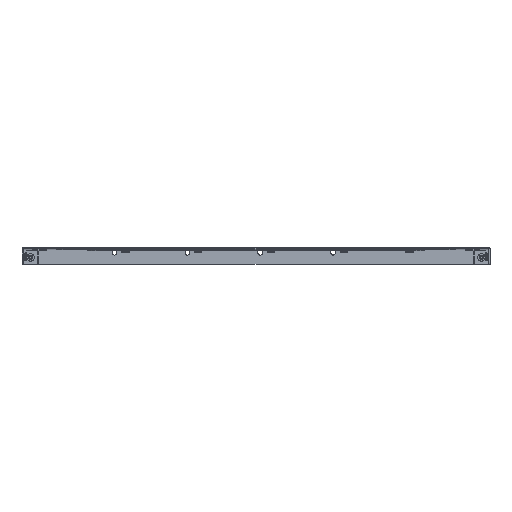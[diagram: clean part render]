
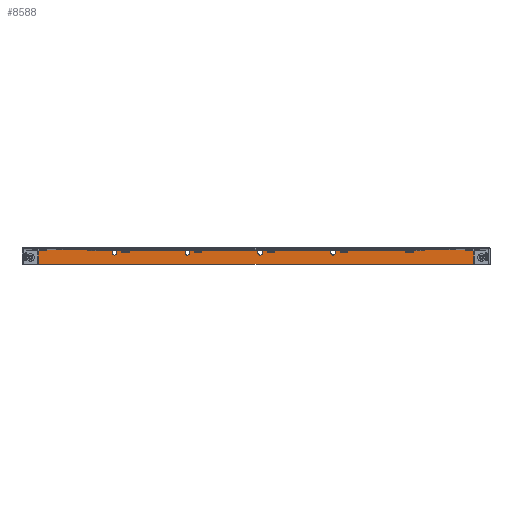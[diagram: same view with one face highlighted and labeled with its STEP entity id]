
A CAD part, top view. The second image highlights one B-rep face of the part: STEP entity #8588.
In plain terms, the highlighted planar face has unit normal (0, 0, 1).
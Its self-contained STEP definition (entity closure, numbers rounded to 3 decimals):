
#2459=CARTESIAN_POINT('',(203.5,-12.8,-600.));
#2460=DIRECTION('',(0.,0.,1.));
#2461=DIRECTION('',(0.,-1.,0.));
#2462=AXIS2_PLACEMENT_3D('',#2459,#2460,#2461);
#2467=DIRECTION('',(-1.,0.,0.));
#2468=VECTOR('',#2467,407.);
#2469=CARTESIAN_POINT('',(203.5,-13.8,-600.));
#2470=LINE('',#2469,#2468);
#2474=CARTESIAN_POINT('',(-203.5,-12.8,-600.));
#2475=DIRECTION('',(0.,0.,1.));
#2476=DIRECTION('',(-1.,0.,0.));
#2477=AXIS2_PLACEMENT_3D('',#2474,#2475,#2476);
#2482=DIRECTION('',(0.,1.,0.));
#2483=VECTOR('',#2482,12.8);
#2484=CARTESIAN_POINT('',(-204.5,-12.8,-600.));
#2485=LINE('',#2484,#2483);
#2489=DIRECTION('',(1.,0.,0.));
#2490=VECTOR('',#2489,69.25);
#2491=CARTESIAN_POINT('',(-204.5,0.,-600.));
#2492=LINE('',#2491,#2490);
#2496=DIRECTION('',(0.,-1.,0.));
#2497=VECTOR('',#2496,2.74);
#2498=CARTESIAN_POINT('',(-135.25,0.,-600.));
#2499=LINE('',#2498,#2497);
#2503=CARTESIAN_POINT('',(-133.,-2.74,-600.));
#2504=DIRECTION('',(0.,0.,-1.));
#2505=DIRECTION('',(1.,0.,0.));
#2506=AXIS2_PLACEMENT_3D('',#2503,#2504,#2505);
#2511=DIRECTION('',(0.,-1.,0.));
#2512=VECTOR('',#2511,2.74);
#2513=CARTESIAN_POINT('',(-130.75,0.,-600.));
#2514=LINE('',#2513,#2512);
#2518=DIRECTION('',(1.,0.,0.));
#2519=VECTOR('',#2518,64.);
#2520=CARTESIAN_POINT('',(-130.75,0.,-600.));
#2521=LINE('',#2520,#2519);
#2525=DIRECTION('',(0.,-1.,0.));
#2526=VECTOR('',#2525,2.74);
#2527=CARTESIAN_POINT('',(-66.75,0.,-600.));
#2528=LINE('',#2527,#2526);
#2532=CARTESIAN_POINT('',(-64.5,-2.74,-600.));
#2533=DIRECTION('',(0.,0.,-1.));
#2534=DIRECTION('',(1.,0.,0.));
#2535=AXIS2_PLACEMENT_3D('',#2532,#2533,#2534);
#2540=DIRECTION('',(0.,-1.,0.));
#2541=VECTOR('',#2540,2.74);
#2542=CARTESIAN_POINT('',(-62.25,0.,-600.));
#2543=LINE('',#2542,#2541);
#2547=DIRECTION('',(1.,0.,0.));
#2548=VECTOR('',#2547,64.);
#2549=CARTESIAN_POINT('',(-62.25,0.,-600.));
#2550=LINE('',#2549,#2548);
#2554=DIRECTION('',(0.,-1.,0.));
#2555=VECTOR('',#2554,2.74);
#2556=CARTESIAN_POINT('',(1.75,0.,-600.));
#2557=LINE('',#2556,#2555);
#2561=CARTESIAN_POINT('',(4.,-2.74,-600.));
#2562=DIRECTION('',(0.,0.,-1.));
#2563=DIRECTION('',(1.,0.,0.));
#2564=AXIS2_PLACEMENT_3D('',#2561,#2562,#2563);
#2569=DIRECTION('',(0.,-1.,0.));
#2570=VECTOR('',#2569,2.74);
#2571=CARTESIAN_POINT('',(6.25,0.,-600.));
#2572=LINE('',#2571,#2570);
#2576=DIRECTION('',(1.,0.,0.));
#2577=VECTOR('',#2576,64.);
#2578=CARTESIAN_POINT('',(6.25,0.,-600.));
#2579=LINE('',#2578,#2577);
#2583=DIRECTION('',(0.,-1.,0.));
#2584=VECTOR('',#2583,2.74);
#2585=CARTESIAN_POINT('',(70.25,0.,-600.));
#2586=LINE('',#2585,#2584);
#2590=CARTESIAN_POINT('',(72.5,-2.74,-600.));
#2591=DIRECTION('',(0.,0.,-1.));
#2592=DIRECTION('',(1.,0.,0.));
#2593=AXIS2_PLACEMENT_3D('',#2590,#2591,#2592);
#2598=DIRECTION('',(0.,-1.,0.));
#2599=VECTOR('',#2598,2.74);
#2600=CARTESIAN_POINT('',(74.75,0.,-600.));
#2601=LINE('',#2600,#2599);
#2605=DIRECTION('',(1.,0.,0.));
#2606=VECTOR('',#2605,129.75);
#2607=CARTESIAN_POINT('',(74.75,0.,-600.));
#2608=LINE('',#2607,#2606);
#2612=DIRECTION('',(0.,-1.,0.));
#2613=VECTOR('',#2612,12.8);
#2614=CARTESIAN_POINT('',(204.5,0.,-600.));
#2615=LINE('',#2614,#2613);
#5776=CARTESIAN_POINT('',(-204.5,0.,-600.));
#5777=VERTEX_POINT('',#5776);
#5780=CARTESIAN_POINT('',(204.5,0.,-600.));
#5781=VERTEX_POINT('',#5780);
#6046=CARTESIAN_POINT('',(203.5,-13.8,-600.));
#6047=VERTEX_POINT('',#6046);
#6048=CARTESIAN_POINT('',(204.5,-12.8,-600.));
#6049=VERTEX_POINT('',#6048);
#6054=CARTESIAN_POINT('',(-204.5,-12.8,-600.));
#6055=VERTEX_POINT('',#6054);
#6056=CARTESIAN_POINT('',(-203.5,-13.8,-600.));
#6057=VERTEX_POINT('',#6056);
#6452=CARTESIAN_POINT('',(-135.25,0.,-600.));
#6453=VERTEX_POINT('',#6452);
#6454=CARTESIAN_POINT('',(-130.75,0.,-600.));
#6455=VERTEX_POINT('',#6454);
#6456=CARTESIAN_POINT('',(-66.75,0.,-600.));
#6457=VERTEX_POINT('',#6456);
#6458=CARTESIAN_POINT('',(-62.25,0.,-600.));
#6459=VERTEX_POINT('',#6458);
#6460=CARTESIAN_POINT('',(1.75,0.,-600.));
#6461=VERTEX_POINT('',#6460);
#6462=CARTESIAN_POINT('',(6.25,0.,-600.));
#6463=VERTEX_POINT('',#6462);
#6464=CARTESIAN_POINT('',(70.25,0.,-600.));
#6465=VERTEX_POINT('',#6464);
#6466=CARTESIAN_POINT('',(74.75,0.,-600.));
#6467=VERTEX_POINT('',#6466);
#6532=CARTESIAN_POINT('',(-135.25,-2.74,-600.));
#6533=VERTEX_POINT('',#6532);
#6534=CARTESIAN_POINT('',(-130.75,-2.74,-600.));
#6535=VERTEX_POINT('',#6534);
#6536=CARTESIAN_POINT('',(-66.75,-2.74,-600.));
#6537=VERTEX_POINT('',#6536);
#6538=CARTESIAN_POINT('',(-62.25,-2.74,-600.));
#6539=VERTEX_POINT('',#6538);
#6540=CARTESIAN_POINT('',(1.75,-2.74,-600.));
#6541=VERTEX_POINT('',#6540);
#6542=CARTESIAN_POINT('',(6.25,-2.74,-600.));
#6543=VERTEX_POINT('',#6542);
#6544=CARTESIAN_POINT('',(70.25,-2.74,-600.));
#6545=VERTEX_POINT('',#6544);
#6546=CARTESIAN_POINT('',(74.75,-2.74,-600.));
#6547=VERTEX_POINT('',#6546);
#8543=CARTESIAN_POINT('',(218.8,1.,-600.));
#8544=DIRECTION('',(0.,0.,-1.));
#8545=DIRECTION('',(1.,0.,0.));
#8546=AXIS2_PLACEMENT_3D('',#8543,#8544,#8545);
#8547=PLANE('',#8546);
#8549=ORIENTED_EDGE('',*,*,#8548,.F.);
#8551=ORIENTED_EDGE('',*,*,#8550,.T.);
#8553=ORIENTED_EDGE('',*,*,#8552,.F.);
#8555=ORIENTED_EDGE('',*,*,#8554,.T.);
#8556=ORIENTED_EDGE('',*,*,#7356,.T.);
#8558=ORIENTED_EDGE('',*,*,#8557,.T.);
#8560=ORIENTED_EDGE('',*,*,#8559,.F.);
#8562=ORIENTED_EDGE('',*,*,#8561,.F.);
#8563=ORIENTED_EDGE('',*,*,#7348,.T.);
#8565=ORIENTED_EDGE('',*,*,#8564,.T.);
#8567=ORIENTED_EDGE('',*,*,#8566,.F.);
#8569=ORIENTED_EDGE('',*,*,#8568,.F.);
#8570=ORIENTED_EDGE('',*,*,#7340,.T.);
#8572=ORIENTED_EDGE('',*,*,#8571,.T.);
#8574=ORIENTED_EDGE('',*,*,#8573,.F.);
#8576=ORIENTED_EDGE('',*,*,#8575,.F.);
#8577=ORIENTED_EDGE('',*,*,#7332,.T.);
#8579=ORIENTED_EDGE('',*,*,#8578,.T.);
#8581=ORIENTED_EDGE('',*,*,#8580,.F.);
#8582=ORIENTED_EDGE('',*,*,#8530,.F.);
#8583=ORIENTED_EDGE('',*,*,#7392,.T.);
#8585=ORIENTED_EDGE('',*,*,#8584,.T.);
#8586=EDGE_LOOP('',(#8549,#8551,#8553,#8555,#8556,#8558,#8560,#8562,#8563,#8565,
#8567,#8569,#8570,#8572,#8574,#8576,#8577,#8579,#8581,#8582,#8583,#8585));
#8587=FACE_OUTER_BOUND('',#8586,.F.);
#2463=CIRCLE('',#2462,1.);
#2478=CIRCLE('',#2477,1.);
#2507=CIRCLE('',#2506,2.25);
#2536=CIRCLE('',#2535,2.25);
#2565=CIRCLE('',#2564,2.25);
#2594=CIRCLE('',#2593,2.25);
#7332=EDGE_CURVE('',#6463,#6465,#2579,.T.);
#7340=EDGE_CURVE('',#6459,#6461,#2550,.T.);
#7348=EDGE_CURVE('',#6455,#6457,#2521,.T.);
#7356=EDGE_CURVE('',#5777,#6453,#2492,.T.);
#7392=EDGE_CURVE('',#6467,#5781,#2608,.T.);
#8530=EDGE_CURVE('',#6467,#6547,#2601,.T.);
#8548=EDGE_CURVE('',#6047,#6049,#2463,.T.);
#8550=EDGE_CURVE('',#6047,#6057,#2470,.T.);
#8552=EDGE_CURVE('',#6055,#6057,#2478,.T.);
#8554=EDGE_CURVE('',#6055,#5777,#2485,.T.);
#8557=EDGE_CURVE('',#6453,#6533,#2499,.T.);
#8559=EDGE_CURVE('',#6535,#6533,#2507,.T.);
#8561=EDGE_CURVE('',#6455,#6535,#2514,.T.);
#8564=EDGE_CURVE('',#6457,#6537,#2528,.T.);
#8566=EDGE_CURVE('',#6539,#6537,#2536,.T.);
#8568=EDGE_CURVE('',#6459,#6539,#2543,.T.);
#8571=EDGE_CURVE('',#6461,#6541,#2557,.T.);
#8573=EDGE_CURVE('',#6543,#6541,#2565,.T.);
#8575=EDGE_CURVE('',#6463,#6543,#2572,.T.);
#8578=EDGE_CURVE('',#6465,#6545,#2586,.T.);
#8580=EDGE_CURVE('',#6547,#6545,#2594,.T.);
#8584=EDGE_CURVE('',#5781,#6049,#2615,.T.);
#8588=ADVANCED_FACE('',(#8587),#8547,.F.);
